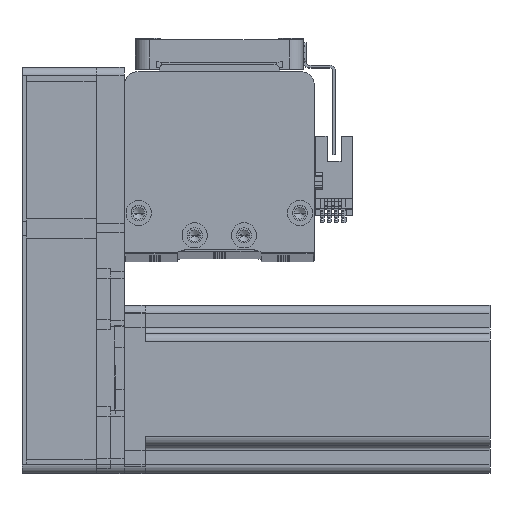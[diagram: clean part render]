
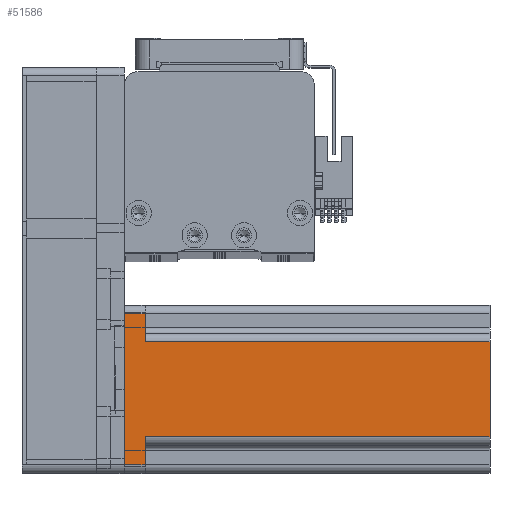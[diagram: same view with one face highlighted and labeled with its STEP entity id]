
A CAD part, top view. The second image highlights one B-rep face of the part: STEP entity #51586.
In plain terms, the highlighted planar face has unit normal (0, 0, 1) as drawn and (0, -1, 0) by its records, which use the part's own axes.
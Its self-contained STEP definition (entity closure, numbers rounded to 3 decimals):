
#6 = CARTESIAN_POINT ( 'NONE',  ( 17., -30., 130.7 ) ) ;
#781 = DIRECTION ( 'NONE',  ( 0., 0., 1. ) ) ;
#1743 = LINE ( 'NONE', #44235, #33550 ) ;
#1926 = VERTEX_POINT ( 'NONE', #25895 ) ;
#2390 = CARTESIAN_POINT ( 'NONE',  ( -27., -30., 130.7 ) ) ;
#4060 = LINE ( 'NONE', #25637, #34571 ) ;
#4113 = EDGE_CURVE ( 'NONE', #34032, #35683, #1743, .T. ) ;
#4223 = FACE_OUTER_BOUND ( 'NONE', #27830, .T. ) ;
#4924 = VECTOR ( 'NONE', #36860, 1000. ) ;
#5227 = VECTOR ( 'NONE', #23013, 1000. ) ;
#5888 = EDGE_CURVE ( 'NONE', #1926, #14758, #17105, .T. ) ;
#6016 = EDGE_CURVE ( 'NONE', #23224, #52470, #9329, .T. ) ;
#6990 = ORIENTED_EDGE ( 'NONE', *, *, #5888, .T. ) ;
#7817 = DIRECTION ( 'NONE',  ( 1., 0., 0. ) ) ;
#8043 = VECTOR ( 'NONE', #21460, 1000. ) ;
#9329 = LINE ( 'NONE', #29821, #8043 ) ;
#10042 = DIRECTION ( 'NONE',  ( 0., 1., 0. ) ) ;
#11540 = VECTOR ( 'NONE', #7817, 1000. ) ;
#14758 = VERTEX_POINT ( 'NONE', #21457 ) ;
#15348 = DIRECTION ( 'NONE',  ( -1., 0., 0. ) ) ;
#16590 = CARTESIAN_POINT ( 'NONE',  ( 30., -30., 0. ) ) ;
#17105 = LINE ( 'NONE', #16590, #50244 ) ;
#17190 = EDGE_CURVE ( 'NONE', #14758, #34032, #4060, .T. ) ;
#21457 = CARTESIAN_POINT ( 'NONE',  ( 27., -30., 0. ) ) ;
#21460 = DIRECTION ( 'NONE',  ( 1., 0., 0. ) ) ;
#21510 = ORIENTED_EDGE ( 'NONE', *, *, #53234, .T. ) ;
#22009 = LINE ( 'NONE', #6, #34425 ) ;
#23013 = DIRECTION ( 'NONE',  ( 0., 0., -1. ) ) ;
#23224 = VERTEX_POINT ( 'NONE', #35630 ) ;
#25637 = CARTESIAN_POINT ( 'NONE',  ( 27., -30., 130.7 ) ) ;
#25895 = CARTESIAN_POINT ( 'NONE',  ( -27., -30., 0. ) ) ;
#27830 = EDGE_LOOP ( 'NONE', ( #43068, #32454, #47999, #27845, #6990, #39322, #42668, #21510 ) ) ;
#27845 = ORIENTED_EDGE ( 'NONE', *, *, #29572, .T. ) ;
#29035 = DIRECTION ( 'NONE',  ( 0., 0., 1. ) ) ;
#29079 = CARTESIAN_POINT ( 'NONE',  ( 27., -30., 7.5 ) ) ;
#29572 = EDGE_CURVE ( 'NONE', #35133, #1926, #49374, .T. ) ;
#29821 = CARTESIAN_POINT ( 'NONE',  ( 30., -30., 130.7 ) ) ;
#32454 = ORIENTED_EDGE ( 'NONE', *, *, #33381, .T. ) ;
#33381 = EDGE_CURVE ( 'NONE', #23224, #49393, #49062, .T. ) ;
#33550 = VECTOR ( 'NONE', #15348, 1000. ) ;
#34032 = VERTEX_POINT ( 'NONE', #29079 ) ;
#34425 = VECTOR ( 'NONE', #29035, 1000. ) ;
#34571 = VECTOR ( 'NONE', #781, 1000. ) ;
#34606 = CARTESIAN_POINT ( 'NONE',  ( -17., -30., 7.5 ) ) ;
#34922 = CARTESIAN_POINT ( 'NONE',  ( 30., -30., 130.7 ) ) ;
#35133 = VERTEX_POINT ( 'NONE', #46458 ) ;
#35630 = CARTESIAN_POINT ( 'NONE',  ( -17., -30., 130.7 ) ) ;
#35683 = VERTEX_POINT ( 'NONE', #46043 ) ;
#36284 = LINE ( 'NONE', #36872, #11540 ) ;
#36860 = DIRECTION ( 'NONE',  ( 0., 0., -1. ) ) ;
#36872 = CARTESIAN_POINT ( 'NONE',  ( -20., -30., 7.5 ) ) ;
#38965 = PLANE ( 'NONE',  #40582 ) ;
#39123 = DIRECTION ( 'NONE',  ( -1., 0., 0. ) ) ;
#39322 = ORIENTED_EDGE ( 'NONE', *, *, #17190, .T. ) ;
#40582 = AXIS2_PLACEMENT_3D ( 'NONE', #34922, #10042, #39123 ) ;
#41339 = DIRECTION ( 'NONE',  ( 1., 0., 0. ) ) ;
#42668 = ORIENTED_EDGE ( 'NONE', *, *, #4113, .T. ) ;
#43068 = ORIENTED_EDGE ( 'NONE', *, *, #6016, .F. ) ;
#44235 = CARTESIAN_POINT ( 'NONE',  ( 20., -30., 7.5 ) ) ;
#45156 = CARTESIAN_POINT ( 'NONE',  ( -17., -30., 130.7 ) ) ;
#45513 = EDGE_CURVE ( 'NONE', #35133, #49393, #36284, .T. ) ;
#46043 = CARTESIAN_POINT ( 'NONE',  ( 17., -30., 7.5 ) ) ;
#46458 = CARTESIAN_POINT ( 'NONE',  ( -27., -30., 7.5 ) ) ;
#47999 = ORIENTED_EDGE ( 'NONE', *, *, #45513, .F. ) ;
#48066 = CARTESIAN_POINT ( 'NONE',  ( 17., -30., 130.7 ) ) ;
#49062 = LINE ( 'NONE', #45156, #4924 ) ;
#49374 = LINE ( 'NONE', #2390, #5227 ) ;
#49393 = VERTEX_POINT ( 'NONE', #34606 ) ;
#50244 = VECTOR ( 'NONE', #41339, 1000. ) ;
#51586 = ADVANCED_FACE ( 'NONE', ( #4223 ), #38965, .F. ) ;
#52470 = VERTEX_POINT ( 'NONE', #48066 ) ;
#53234 = EDGE_CURVE ( 'NONE', #35683, #52470, #22009, .T. ) ;
